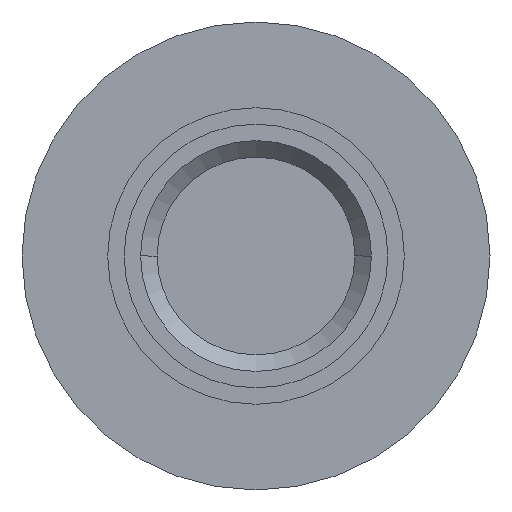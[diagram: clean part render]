
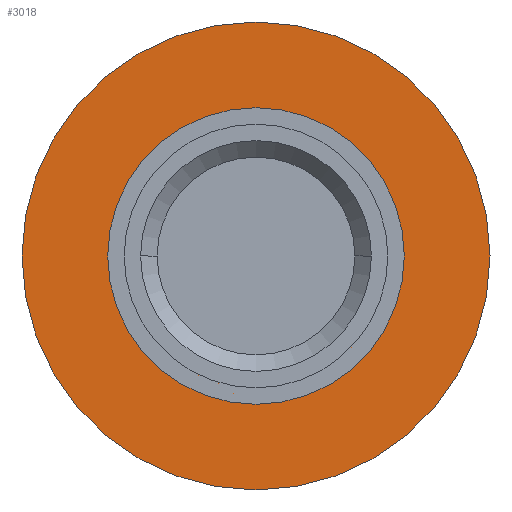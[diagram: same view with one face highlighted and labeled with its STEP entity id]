
A CAD part, front view. The second image highlights one B-rep face of the part: STEP entity #3018.
In plain terms, the highlighted planar face has unit normal (0, -1, 0).
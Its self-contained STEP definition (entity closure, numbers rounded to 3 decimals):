
#264 = CARTESIAN_POINT ( 'NONE',  ( 0., 0., 0. ) ) ;
#391 = DIRECTION ( 'NONE',  ( 0., 0., -1. ) ) ;
#420 = EDGE_CURVE ( 'NONE', #2734, #1183, #2875, .T. ) ;
#430 = DIRECTION ( 'NONE',  ( 0., 1., 0. ) ) ;
#462 = CARTESIAN_POINT ( 'NONE',  ( 0., 0., -4. ) ) ;
#482 = CIRCLE ( 'NONE', #1066, 4. ) ;
#550 = EDGE_CURVE ( 'NONE', #1183, #2734, #3014, .T. ) ;
#601 = EDGE_LOOP ( 'NONE', ( #665, #1625 ) ) ;
#665 = ORIENTED_EDGE ( 'NONE', *, *, #420, .F. ) ;
#784 = PLANE ( 'NONE',  #1727 ) ;
#1044 = DIRECTION ( 'NONE',  ( 0., -1., 0. ) ) ;
#1066 = AXIS2_PLACEMENT_3D ( 'NONE', #2605, #2423, #1232 ) ;
#1088 = EDGE_LOOP ( 'NONE', ( #2248, #2306 ) ) ;
#1090 = CARTESIAN_POINT ( 'NONE',  ( 0., 0., 0. ) ) ;
#1124 = CARTESIAN_POINT ( 'NONE',  ( 0., 0., 0. ) ) ;
#1183 = VERTEX_POINT ( 'NONE', #1746 ) ;
#1232 = DIRECTION ( 'NONE',  ( 0., 0., -1. ) ) ;
#1355 = AXIS2_PLACEMENT_3D ( 'NONE', #1090, #1044, #391 ) ;
#1389 = CARTESIAN_POINT ( 'NONE',  ( 0., 0., 4. ) ) ;
#1438 = DIRECTION ( 'NONE',  ( 0., 0., 1. ) ) ;
#1454 = VERTEX_POINT ( 'NONE', #1389 ) ;
#1530 = AXIS2_PLACEMENT_3D ( 'NONE', #3001, #430, #2041 ) ;
#1625 = ORIENTED_EDGE ( 'NONE', *, *, #550, .F. ) ;
#1684 = FACE_BOUND ( 'NONE', #1088, .T. ) ;
#1727 = AXIS2_PLACEMENT_3D ( 'NONE', #264, #2858, #1438 ) ;
#1746 = CARTESIAN_POINT ( 'NONE',  ( 0., 0., -7.1 ) ) ;
#1909 = CIRCLE ( 'NONE', #1355, 4. ) ;
#1914 = VERTEX_POINT ( 'NONE', #462 ) ;
#2006 = CARTESIAN_POINT ( 'NONE',  ( 0., 0., 7.1 ) ) ;
#2041 = DIRECTION ( 'NONE',  ( 0., 0., 1. ) ) ;
#2067 = DIRECTION ( 'NONE',  ( 0., 1., 0. ) ) ;
#2132 = EDGE_CURVE ( 'NONE', #1914, #1454, #482, .T. ) ;
#2248 = ORIENTED_EDGE ( 'NONE', *, *, #2132, .F. ) ;
#2306 = ORIENTED_EDGE ( 'NONE', *, *, #2629, .F. ) ;
#2423 = DIRECTION ( 'NONE',  ( 0., -1., 0. ) ) ;
#2482 = AXIS2_PLACEMENT_3D ( 'NONE', #1124, #2067, #2783 ) ;
#2605 = CARTESIAN_POINT ( 'NONE',  ( 0., 0., 0. ) ) ;
#2629 = EDGE_CURVE ( 'NONE', #1454, #1914, #1909, .T. ) ;
#2734 = VERTEX_POINT ( 'NONE', #2006 ) ;
#2783 = DIRECTION ( 'NONE',  ( 0., 0., 1. ) ) ;
#2858 = DIRECTION ( 'NONE',  ( 0., 1., 0. ) ) ;
#2875 = CIRCLE ( 'NONE', #1530, 7.1 ) ;
#2888 = FACE_OUTER_BOUND ( 'NONE', #601, .T. ) ;
#3001 = CARTESIAN_POINT ( 'NONE',  ( 0., 0., 0. ) ) ;
#3014 = CIRCLE ( 'NONE', #2482, 7.1 ) ;
#3018 = ADVANCED_FACE ( 'NONE', ( #1684, #2888 ), #784, .F. ) ;
